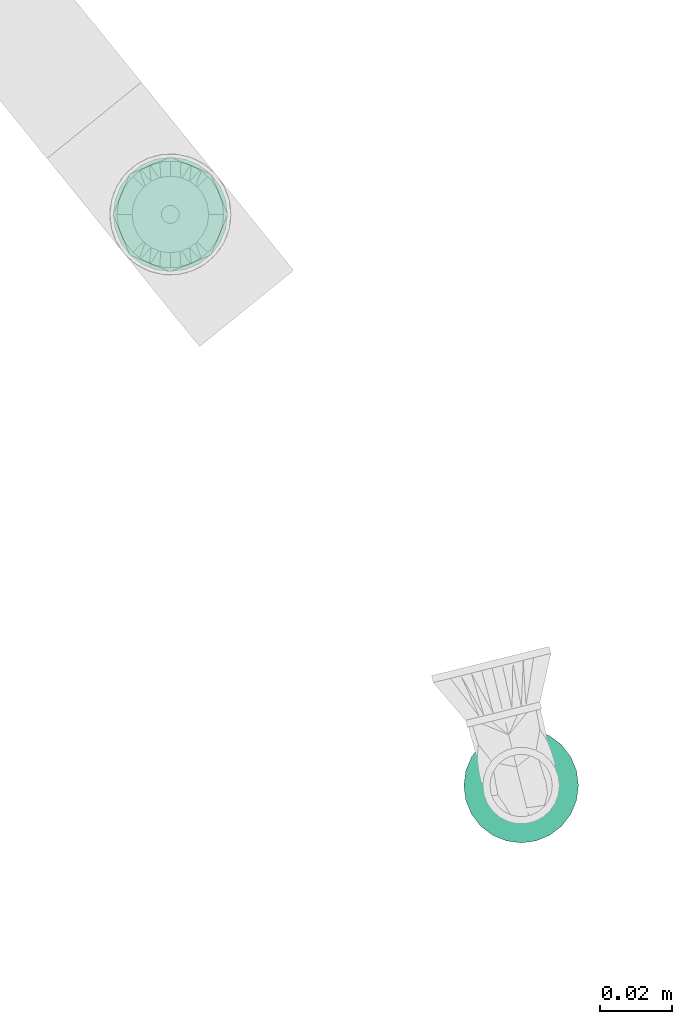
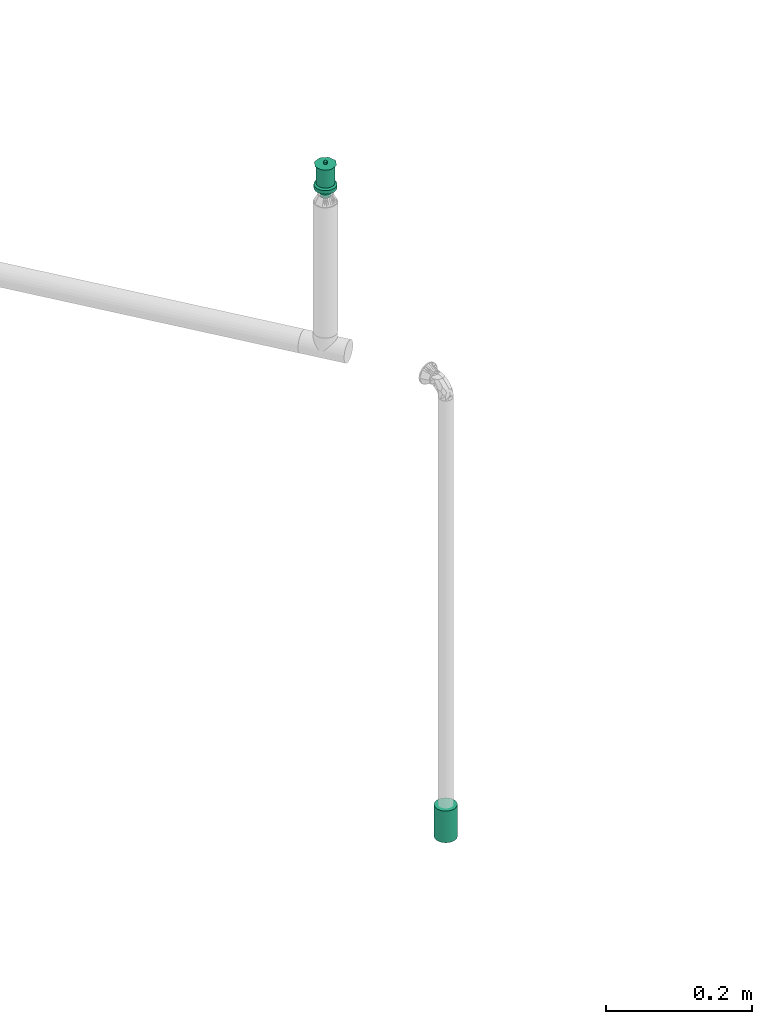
# One storey, part 86 of 94: 2 flow terminals.
"""IFC2X3 building model written with IfcOpenShell, lengths in millimetres."""

from ifc_helpers import new_model, entity, si_unit, converted_unit, derived_unit, direction, frame, origin_with_axes, place, context, subcontext, project, spatial, open_shell, surface_model, source, transform, mapped, type_object, element, save


model = new_model("IFC2X3")

# Units and contexts
model_context = context("Model", 3, precision=0.01, world=frame((0.0, 4.29681676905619e-09, 0.0)), true_north=direction((4.01073788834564e-13, 1.0)))
plan_context = context("Plan", 3, precision=0.01, world=frame((0.0, 4.29681676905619e-09, 0.0)), true_north=direction((4.01073788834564e-13, 1.0)))
body_context = subcontext(model_context, "Body", "Model", "MODEL_VIEW")
ifc_project = project(units=[converted_unit("PLANEANGLEUNIT", "DEGREE", entity("IfcPositiveLengthMeasure", 0.0174532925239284), si_unit("PLANEANGLEUNIT", "RADIAN"), dimensions=[0, 0, 0, 0, 0, 0, 0]), si_unit("AREAUNIT", "SQUARE_METRE"), si_unit("LENGTHUNIT", "METRE", prefix="MILLI"), si_unit("MASSUNIT", "GRAM", prefix="KILO"), si_unit("POWERUNIT", "WATT"), si_unit("PRESSUREUNIT", "PASCAL", prefix="KILO"), si_unit("FORCEUNIT", "NEWTON", prefix="KILO"), si_unit("ELECTRICVOLTAGEUNIT", "VOLT"), si_unit("ELECTRICCURRENTUNIT", "AMPERE"), si_unit("THERMODYNAMICTEMPERATUREUNIT", "DEGREE_CELSIUS"), si_unit("TIMEUNIT", "SECOND"), si_unit("VOLUMEUNIT", "CUBIC_METRE"), derived_unit("LINEARVELOCITYUNIT", [(si_unit("LENGTHUNIT", "METRE"), 1), (si_unit("TIMEUNIT", "SECOND"), -1)]), derived_unit("VOLUMETRICFLOWRATEUNIT", [(si_unit("VOLUMEUNIT", "CUBIC_METRE"), 1), (si_unit("TIMEUNIT", "SECOND"), -1)]), derived_unit("THERMALTRANSMITTANCEUNIT", [(si_unit("POWERUNIT", "WATT"), 1), (si_unit("THERMODYNAMICTEMPERATUREUNIT", "KELVIN"), -1), (si_unit("AREAUNIT", "SQUARE_METRE"), -1)]), derived_unit("SOUNDPRESSUREUNIT", [(si_unit("PRESSUREUNIT", "PASCAL"), 1)])], contexts=[model_context, plan_context])

# Site, building, storey
site_placement = place(None, frame((0.0, -4.29681676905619e-09, 0.0), z_axis=(0.0, 0.0, 1.0), x_axis=(1.0, 0.0, 0.0)))
site = spatial("IfcSite", under=ifc_project, at=site_placement, CompositionType="ELEMENT")
building_placement = place(site_placement, frame((0.0, 4.29681676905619e-09, 0.0), z_axis=(0.0, 0.0, 1.0), x_axis=(1.0, 0.0, 0.0)))
building = spatial("IfcBuilding", under=site, at=building_placement, Name="mc-building", CompositionType="ELEMENT")
storey_placement = place(building_placement, frame((0.0, 0.0, 210900.0), z_axis=(0.0, 0.0, 1.0), x_axis=(1.0, 0.0, 0.0)))
storey = spatial("IfcBuildingStorey", under=building, at=storey_placement, Name="Nivå F", CompositionType="ELEMENT", Elevation=210900.0)

# Flow terminals
fire_suppression_terminal_type_1 = type_object("IfcFireSuppressionTerminalType", Name="68DGR-STD-STÅENDE", PredefinedType="NOTDEFINED")
shared_shape_1 = source(origin_with_axes(), body_context, "Body", "SurfaceModel", [
    surface_model("IfcShellBasedSurfaceModel", [(3.36465, -12.55704, 51.0), (6.5, -11.25833, 51.0), (9.19239, -9.19239, 51.0), (12.55704, -3.36465, 51.0), (-11.25833, -6.5, 51.0), (11.25833, -6.5, 51.0), (-13.0, 0.0, 51.0), (0.0, -13.0, 51.0), (-6.5, -11.25833, 51.0), (-3.36465, -12.55704, 51.0), (-9.19239, -9.19239, 51.0), (-12.55704, -3.36465, 51.0), (13.0, 0.0, 51.0), (12.55704, 3.36465, 51.0), (11.25833, 6.5, 51.0), (9.19239, 9.19239, 51.0), (6.5, 11.25833, 51.0), (3.36465, 12.55704, 51.0), (0.0, 13.0, 51.0), (-3.36465, 12.55704, 51.0), (-12.55704, 3.36465, 51.0), (-9.19239, 9.19239, 51.0), (-11.25833, 6.5, 51.0), (-6.5, 11.25833, 51.0), (0.0, 13.0, 21.14766), (3.36465, 12.55704, 21.14766), (6.5, 11.25833, 21.14766), (-3.36465, 12.55704, 21.14766), (9.19239, 9.19239, 21.14766), (11.25833, 6.5, 21.14766), (12.55704, 3.36465, 21.14766), (-12.55704, 3.36465, 21.14766), (-11.25833, -6.5, 21.14766), (-9.19239, 9.19239, 21.14766), (-6.5, 11.25833, 21.14766), (-11.25833, 6.5, 21.14766), (-13.0, 0.0, 21.14766), (12.55704, -3.36465, 21.14766), (9.19239, -9.19239, 21.14766), (11.25833, -6.5, 21.14766), (6.5, -11.25833, 21.14766), (3.36465, -12.55704, 21.14766), (-6.5, -11.25833, 21.14766), (-9.19239, -9.19239, 21.14766), (-12.55704, -3.36465, 21.14766), (0.0, -13.0, 21.14766), (-3.36465, -12.55704, 21.14766), (13.0, 0.0, 21.14766), (7.24444, -1.94114, 0.1), (1.94114, -7.24444, 0.1), (3.75, -6.49519, 0.1), (5.3033, -5.3033, 0.1), (-5.3033, -5.3033, 0.1), (6.49519, -3.75, 0.1), (5.3033, 5.3033, 0.1), (0.0, -7.5, 0.1), (-3.75, -6.49519, 0.1), (-1.94114, -7.24444, 0.1), (-7.24444, -1.94114, 0.1), (-6.49519, -3.75, 0.1), (-7.24444, 1.94114, 0.1), (7.5, 0.0, 0.1), (6.49519, 3.75, 0.1), (-6.49519, 3.75, 0.1), (1.94114, 7.24444, 0.1), (0.0, 7.5, 0.1), (3.75, 6.49519, 0.1), (-7.5, 0.0, 0.1), (-5.3033, 5.3033, 0.1), (-1.94114, 7.24444, 0.1), (-3.75, 6.49519, 0.1), (7.24444, 1.94114, 0.1), (1.94114, 7.24444, -0.1), (-6.49519, 3.75, -0.1), (0.0, 7.5, -0.1), (5.3033, 5.3033, -0.1), (3.75, 6.49519, -0.1), (6.49519, 3.75, -0.1), (7.24444, 1.94114, -0.1), (-1.94114, 7.24444, -0.1), (-5.3033, 5.3033, -0.1), (-3.75, 6.49519, -0.1), (-7.24444, 1.94114, -0.1), (-7.24444, -1.94114, -0.1), (-7.5, 0.0, -0.1), (7.5, 0.0, -0.1), (7.24444, -1.94114, -0.1), (-5.3033, -5.3033, -0.1), (1.94114, -7.24444, -0.1), (6.49519, -3.75, -0.1), (5.3033, -5.3033, -0.1), (3.75, -6.49519, -0.1), (-6.49519, -3.75, -0.1), (-3.75, -6.49519, -0.1), (0.0, -7.5, -0.1), (-1.94114, -7.24444, -0.1), (0.0, -2.5, 51.0), (-2.5, 0.0, 51.0), (0.0, 2.5, 51.0), (2.5, 0.0, 51.0), (0.0, -16.0, 53.0), (11.31371, -11.31371, 53.0), (-11.31371, -11.31371, 53.0), (-16.0, 0.0, 53.0), (16.0, 0.0, 53.0), (11.31371, 11.31371, 53.0), (0.0, 16.0, 53.0), (-11.31371, 11.31371, 53.0), (1.25, -2.16506, 57.0), (0.0, -2.5, 57.0), (0.64705, -2.41481, 57.0), (2.41481, -0.64705, 57.0), (1.76777, -1.76777, 57.0), (-2.41481, -0.64705, 57.0), (-2.5, 0.0, 57.0), (2.16506, -1.25, 57.0), (-1.25, -2.16506, 57.0), (-0.64705, -2.41481, 57.0), (-1.76777, -1.76777, 57.0), (-2.16506, -1.25, 57.0), (2.5, 0.0, 57.0), (2.41481, 0.64705, 57.0), (2.16506, 1.25, 57.0), (1.76777, 1.76777, 57.0), (0.64705, 2.41481, 57.0), (1.25, 2.16506, 57.0), (-1.76777, 1.76777, 57.0), (0.0, 2.5, 57.0), (-2.16506, 1.25, 57.0), (-2.41481, 0.64705, 57.0), (-0.64705, 2.41481, 57.0), (-1.25, 2.16506, 57.0), (1.25, 2.16506, 51.0), (1.76777, 1.76777, 51.0), (1.15, 1.99186, 51.0), (0.59528, 2.22163, 51.0), (0.64705, 2.41481, 51.0), (0.0, 2.3, 51.0), (1.62635, 1.62635, 51.0), (2.41481, 0.64705, 51.0), (2.3, 0.0, 51.0), (2.22163, 0.59528, 51.0), (2.16506, 1.25, 51.0), (1.99186, 1.15, 51.0), (-0.59528, 2.22163, 51.0), (-0.64705, 2.41481, 51.0), (-1.15, 1.99186, 51.0), (-1.76777, 1.76777, 51.0), (-1.25, 2.16506, 51.0), (-1.62635, 1.62635, 51.0), (-1.99186, 1.15, 51.0), (-2.16506, 1.25, 51.0), (-2.22163, 0.59528, 51.0), (-2.41481, 0.64705, 51.0), (-2.3, 0.0, 51.0), (2.41481, -0.64705, 51.0), (2.22163, -0.59528, 51.0), (1.99186, -1.15, 51.0), (2.16506, -1.25, 51.0), (1.62635, -1.62635, 51.0), (1.76777, -1.76777, 51.0), (1.25, -2.16506, 51.0), (1.15, -1.99186, 51.0), (0.59528, -2.22163, 51.0), (0.64705, -2.41481, 51.0), (0.0, -2.3, 51.0), (-2.16506, -1.25, 51.0), (-1.99186, -1.15, 51.0), (-1.76777, -1.76777, 51.0), (-1.62635, -1.62635, 51.0), (-2.41481, -0.64705, 51.0), (-2.22163, -0.59528, 51.0), (-0.59528, -2.22163, 51.0), (-0.64705, -2.41481, 51.0), (-1.15, -1.99186, 51.0), (-1.25, -2.16506, 51.0), (1.62635, -1.62635, 56.8), (1.15, -1.99186, 56.8), (0.59528, -2.22163, 56.8), (0.0, -2.3, 56.8), (2.22163, 0.59528, 56.8), (1.99186, -1.15, 56.8), (2.22163, -0.59528, 56.8), (-0.59528, -2.22163, 56.8), (-1.15, -1.99186, 56.8), (-1.62635, -1.62635, 56.8), (-1.99186, -1.15, 56.8), (-2.22163, -0.59528, 56.8), (-1.99186, 1.15, 56.8), (2.3, 0.0, 56.8), (1.62635, 1.62635, 56.8), (1.99186, 1.15, 56.8), (1.15, 1.99186, 56.8), (0.0, 2.3, 56.8), (0.59528, 2.22163, 56.8), (-2.22163, 0.59528, 56.8), (-2.3, 0.0, 56.8), (-1.15, 1.99186, 56.8), (-0.59528, 2.22163, 56.8), (-1.62635, 1.62635, 56.8), (4.1411, -15.45481, 19.0), (8.0, -13.85641, 19.0), (11.31371, -11.31371, 19.0), (-8.0, -13.85641, 19.0), (15.45481, -4.1411, 19.0), (16.0, 0.0, 19.0), (13.85641, -8.0, 19.0), (0.0, -16.0, 19.0), (-4.1411, -15.45481, 19.0), (-13.85641, -8.0, 19.0), (-11.31371, -11.31371, 19.0), (-15.45481, -4.1411, 19.0), (15.45481, 4.1411, 19.0), (13.85641, 8.0, 19.0), (11.31371, 11.31371, 19.0), (-4.1411, 15.45481, 19.0), (8.0, 13.85641, 19.0), (4.1411, 15.45481, 19.0), (0.0, 16.0, 19.0), (-13.85641, 8.0, 19.0), (-15.45481, 4.1411, 19.0), (-16.0, 0.0, 19.0), (-11.31371, 11.31371, 19.0), (-8.0, 13.85641, 19.0), (0.0, 16.0, 13.0), (4.1411, 15.45481, 13.0), (8.0, 13.85641, 13.0), (-4.1411, 15.45481, 13.0), (11.31371, 11.31371, 13.0), (13.85641, 8.0, 13.0), (15.45481, 4.1411, 13.0), (-15.45481, -4.1411, 13.0), (-11.31371, 11.31371, 13.0), (-8.0, 13.85641, 13.0), (-13.85641, 8.0, 13.0), (-15.45481, 4.1411, 13.0), (-16.0, 0.0, 13.0), (4.1411, -15.45481, 13.0), (16.0, 0.0, 13.0), (15.45481, -4.1411, 13.0), (13.85641, -8.0, 13.0), (11.31371, -11.31371, 13.0), (8.0, -13.85641, 13.0), (-8.0, -13.85641, 13.0), (-13.85641, -8.0, 13.0), (-11.31371, -11.31371, 13.0), (0.0, -16.0, 13.0), (-4.1411, -15.45481, 13.0), (7.24444, -1.94114, 13.0), (1.94114, -7.24444, 13.0), (3.75, -6.49519, 13.0), (5.3033, -5.3033, 13.0), (-5.3033, -5.3033, 13.0), (6.49519, -3.75, 13.0), (5.3033, 5.3033, 13.0), (0.0, -7.5, 13.0), (-3.75, -6.49519, 13.0), (-1.94114, -7.24444, 13.0), (-7.24444, -1.94114, 13.0), (-6.49519, -3.75, 13.0), (-7.24444, 1.94114, 13.0), (7.5, 0.0, 13.0), (6.49519, 3.75, 13.0), (-6.49519, 3.75, 13.0), (1.94114, 7.24444, 13.0), (0.0, 7.5, 13.0), (3.75, 6.49519, 13.0), (-7.5, 0.0, 13.0), (-5.3033, 5.3033, 13.0), (-1.94114, 7.24444, 13.0), (-3.75, 6.49519, 13.0), (7.24444, 1.94114, 13.0), (3.75, 6.49519, 0.0), (5.3033, 5.3033, 0.0), (3.65, 6.32199, 0.0), (1.88938, 7.05126, 0.0), (0.0, 7.3, 0.0), (1.94114, 7.24444, 0.0), (0.0, 7.5, 0.0), (5.16188, 5.16188, 0.0), (7.24444, 1.94114, 0.0), (7.3, 0.0, 0.0), (7.05126, 1.88938, 0.0), (7.5, 0.0, 0.0), (6.49519, 3.75, 0.0), (6.32199, 3.65, 0.0), (-1.88938, 7.05126, 0.0), (-1.94114, 7.24444, 0.0), (-3.65, 6.32199, 0.0), (-5.3033, 5.3033, 0.0), (-3.75, 6.49519, 0.0), (-5.16188, 5.16188, 0.0), (-6.32199, 3.65, 0.0), (-6.49519, 3.75, 0.0), (-7.05126, 1.88938, 0.0), (-7.24444, 1.94114, 0.0), (-7.3, 0.0, 0.0), (-7.5, 0.0, 0.0), (7.24444, -1.94114, 0.0), (7.05126, -1.88938, 0.0), (6.32199, -3.65, 0.0), (6.49519, -3.75, 0.0), (5.16188, -5.16188, 0.0), (5.3033, -5.3033, 0.0), (3.75, -6.49519, 0.0), (3.65, -6.32199, 0.0), (1.88938, -7.05126, 0.0), (1.94114, -7.24444, 0.0), (0.0, -7.3, 0.0), (0.0, -7.5, 0.0), (-6.49519, -3.75, 0.0), (-6.32199, -3.65, 0.0), (-5.3033, -5.3033, 0.0), (-5.16188, -5.16188, 0.0), (-7.24444, -1.94114, 0.0), (-7.05126, -1.88938, 0.0), (-1.88938, -7.05126, 0.0), (-1.94114, -7.24444, 0.0), (-3.65, -6.32199, 0.0), (-3.75, -6.49519, 0.0), (1.88938, -7.05126, 12.8), (0.0, -7.3, 12.8), (3.65, -6.32199, 12.8), (5.16188, -5.16188, 12.8), (6.32199, -3.65, 12.8), (7.05126, 1.88938, 12.8), (7.05126, -1.88938, 12.8), (-5.16188, -5.16188, 12.8), (-1.88938, -7.05126, 12.8), (-3.65, -6.32199, 12.8), (-6.32199, -3.65, 12.8), (-7.05126, -1.88938, 12.8), (0.0, 7.3, 12.8), (7.3, 0.0, 12.8), (6.32199, 3.65, 12.8), (5.16188, 5.16188, 12.8), (3.65, 6.32199, 12.8), (1.88938, 7.05126, 12.8), (-6.32199, 3.65, 12.8), (-7.05126, 1.88938, 12.8), (-7.3, 0.0, 12.8), (-3.65, 6.32199, 12.8), (-1.88938, 7.05126, 12.8), (-5.16188, 5.16188, 12.8)], [open_shell([[[0, 1, 2]], [[0, 2, 3]], [[0, 3, 4]], [[3, 2, 5]], [[6, 4, 3]], [[7, 8, 9]], [[7, 0, 8]], [[8, 4, 10]], [[0, 4, 8]], [[4, 6, 11]], [[6, 3, 12]], [[13, 14, 15]], [[6, 13, 15]], [[16, 17, 18]], [[15, 16, 19]], [[18, 19, 16]], [[20, 21, 22]], [[20, 6, 15]], [[21, 19, 23]], [[19, 21, 20]], [[15, 19, 20]], [[13, 6, 12]], [[24, 25, 26]], [[27, 24, 26]], [[28, 29, 30]], [[26, 28, 31]], [[28, 32, 31]], [[27, 33, 34]], [[33, 27, 31]], [[33, 31, 35]], [[27, 26, 31]], [[31, 32, 36]], [[32, 28, 30]], [[32, 30, 37]], [[38, 37, 39]], [[38, 40, 41]], [[38, 41, 37]], [[32, 37, 41]], [[32, 42, 43]], [[44, 36, 32]], [[42, 45, 46]], [[42, 32, 41]], [[45, 42, 41]], [[30, 47, 37]], [[4, 32, 43]], [[8, 42, 46]], [[43, 42, 10]], [[9, 46, 45]], [[36, 11, 6]], [[11, 36, 44]], [[11, 44, 4]], [[44, 32, 4]], [[43, 10, 4]], [[8, 10, 42]], [[46, 9, 8]], [[45, 7, 9]], [[0, 41, 40]], [[38, 1, 40]], [[5, 39, 37]], [[38, 39, 2]], [[3, 37, 47]], [[41, 0, 7]], [[40, 1, 0]], [[38, 2, 1]], [[39, 5, 2]], [[3, 5, 37]], [[47, 12, 3]], [[41, 7, 45]], [[30, 13, 47]], [[29, 14, 30]], [[25, 24, 17]], [[15, 29, 28]], [[30, 14, 13]], [[13, 12, 47]], [[16, 26, 17]], [[16, 15, 28]], [[26, 25, 17]], [[15, 14, 29]], [[28, 26, 16]], [[24, 18, 17]], [[19, 27, 34]], [[33, 23, 34]], [[22, 35, 31]], [[33, 35, 21]], [[20, 31, 36]], [[27, 19, 18]], [[34, 23, 19]], [[33, 21, 23]], [[35, 22, 21]], [[20, 22, 31]], [[36, 6, 20]], [[27, 18, 24]], [[48, 49, 50]], [[48, 50, 51]], [[49, 48, 52]], [[48, 51, 53]], [[54, 52, 48]], [[55, 56, 57]], [[56, 55, 52]], [[52, 58, 59]], [[52, 55, 49]], [[52, 60, 58]], [[54, 48, 61]], [[62, 54, 61]], [[54, 63, 52]], [[64, 65, 54]], [[64, 54, 66]], [[63, 54, 65]], [[63, 60, 52]], [[67, 58, 60]], [[68, 69, 70]], [[69, 68, 63]], [[69, 63, 65]], [[71, 62, 61]], [[72, 73, 74]], [[75, 72, 76]], [[75, 77, 78]], [[72, 75, 73]], [[78, 73, 75]], [[79, 80, 81]], [[80, 79, 73]], [[74, 73, 79]], [[78, 82, 73]], [[82, 83, 84]], [[82, 78, 85]], [[86, 87, 85]], [[88, 86, 89]], [[90, 91, 88]], [[90, 88, 89]], [[87, 86, 88]], [[83, 87, 92]], [[83, 85, 87]], [[93, 94, 95]], [[94, 93, 87]], [[88, 94, 87]], [[85, 83, 82]], [[83, 58, 84]], [[92, 59, 83]], [[56, 87, 93]], [[92, 87, 52]], [[57, 93, 95]], [[83, 59, 58]], [[58, 67, 84]], [[57, 56, 93]], [[52, 87, 56]], [[52, 59, 92]], [[55, 57, 95]], [[95, 94, 55]], [[88, 49, 94]], [[91, 50, 88]], [[53, 90, 89]], [[91, 90, 51]], [[48, 89, 86]], [[91, 51, 50]], [[50, 49, 88]], [[61, 48, 86]], [[53, 89, 48]], [[53, 51, 90]], [[85, 61, 86]], [[94, 49, 55]], [[78, 71, 85]], [[77, 62, 78]], [[66, 75, 76]], [[77, 75, 54]], [[64, 76, 72]], [[78, 62, 71]], [[71, 61, 85]], [[64, 66, 76]], [[54, 75, 66]], [[54, 62, 77]], [[65, 64, 72]], [[72, 74, 65]], [[79, 69, 74]], [[81, 70, 79]], [[63, 80, 73]], [[81, 80, 68]], [[60, 73, 82]], [[81, 68, 70]], [[70, 69, 79]], [[67, 60, 82]], [[63, 73, 60]], [[63, 68, 80]], [[84, 67, 82]], [[74, 69, 65]], [[96, 97, 98]], [[98, 99, 96]], [[100, 101, 102]], [[103, 102, 101]], [[101, 104, 103]], [[104, 105, 106]], [[107, 103, 106]], [[106, 103, 104]], [[99, 98, 105]], [[105, 104, 99]], [[98, 106, 105]], [[98, 107, 106]], [[107, 98, 97]], [[103, 107, 97]], [[97, 96, 102]], [[102, 103, 97]], [[96, 100, 102]], [[96, 101, 100]], [[101, 96, 99]], [[104, 101, 99]], [[108, 109, 110]], [[111, 108, 112]], [[113, 108, 114]], [[111, 112, 115]], [[108, 111, 114]], [[109, 116, 117]], [[116, 109, 118]], [[118, 113, 119]], [[118, 109, 108]], [[108, 113, 118]], [[111, 120, 114]], [[121, 122, 123]], [[114, 121, 123]], [[114, 123, 124]], [[124, 123, 125]], [[126, 124, 127]], [[124, 128, 129]], [[129, 114, 124]], [[126, 130, 131]], [[128, 124, 126]], [[130, 126, 127]], [[121, 114, 120]], [[132, 133, 134]], [[132, 134, 135]], [[136, 135, 137]], [[135, 136, 132]], [[136, 137, 98]], [[134, 133, 138]], [[139, 140, 141]], [[140, 139, 99]], [[139, 141, 142]], [[138, 142, 143]], [[142, 138, 133]], [[143, 142, 141]], [[98, 144, 145]], [[98, 137, 144]], [[145, 144, 146]], [[147, 148, 149]], [[146, 148, 145]], [[149, 148, 146]], [[150, 151, 147]], [[151, 150, 152]], [[150, 147, 149]], [[153, 152, 154]], [[152, 153, 151]], [[153, 154, 97]], [[99, 155, 156]], [[156, 155, 157]], [[157, 158, 159]], [[158, 157, 155]], [[159, 158, 160]], [[160, 161, 162]], [[162, 161, 163]], [[163, 164, 165]], [[164, 163, 161]], [[165, 164, 96]], [[162, 159, 160]], [[166, 167, 168]], [[168, 167, 169]], [[167, 166, 170]], [[97, 171, 170]], [[170, 171, 167]], [[97, 154, 171]], [[172, 96, 173]], [[172, 173, 174]], [[169, 175, 168]], [[175, 169, 174]], [[175, 174, 173]], [[165, 96, 172]], [[156, 140, 99]], [[170, 113, 97]], [[166, 119, 170]], [[116, 168, 175]], [[166, 168, 118]], [[117, 175, 173]], [[170, 119, 113]], [[113, 114, 97]], [[117, 116, 175]], [[118, 168, 116]], [[118, 119, 166]], [[109, 117, 173]], [[173, 96, 109]], [[164, 110, 96]], [[161, 108, 164]], [[115, 160, 158]], [[161, 160, 112]], [[111, 158, 155]], [[161, 112, 108]], [[108, 110, 164]], [[120, 111, 155]], [[115, 158, 111]], [[115, 112, 160]], [[99, 120, 155]], [[96, 110, 109]], [[139, 121, 99]], [[142, 122, 139]], [[125, 133, 132]], [[142, 133, 123]], [[124, 132, 136]], [[139, 122, 121]], [[121, 120, 99]], [[124, 125, 132]], [[123, 133, 125]], [[123, 122, 142]], [[127, 124, 136]], [[136, 98, 127]], [[145, 130, 98]], [[148, 131, 145]], [[128, 147, 151]], [[148, 147, 126]], [[129, 151, 153]], [[148, 126, 131]], [[131, 130, 145]], [[114, 129, 153]], [[128, 151, 129]], [[128, 126, 147]], [[97, 114, 153]], [[98, 130, 127]], [[176, 177, 178]], [[176, 178, 179]], [[180, 176, 179]], [[181, 176, 182]], [[180, 182, 176]], [[183, 184, 179]], [[185, 179, 184]], [[186, 187, 185]], [[185, 187, 188]], [[179, 185, 188]], [[189, 182, 180]], [[190, 191, 180]], [[192, 190, 180]], [[193, 194, 192]], [[180, 193, 192]], [[188, 193, 180]], [[195, 188, 196]], [[196, 188, 187]], [[197, 198, 199]], [[188, 199, 198]], [[188, 198, 193]], [[180, 179, 188]], [[154, 187, 171]], [[171, 186, 167]], [[174, 169, 184]], [[185, 169, 167]], [[172, 174, 183]], [[187, 186, 171]], [[154, 196, 187]], [[174, 184, 183]], [[184, 169, 185]], [[167, 186, 185]], [[172, 183, 179]], [[179, 165, 172]], [[165, 178, 163]], [[163, 177, 162]], [[157, 159, 181]], [[176, 159, 162]], [[156, 157, 182]], [[177, 176, 162]], [[163, 178, 177]], [[156, 182, 189]], [[182, 157, 181]], [[159, 176, 181]], [[156, 189, 140]], [[179, 178, 165]], [[140, 180, 141]], [[141, 191, 143]], [[134, 138, 192]], [[190, 138, 143]], [[135, 134, 194]], [[180, 191, 141]], [[140, 189, 180]], [[134, 192, 194]], [[192, 138, 190]], [[143, 191, 190]], [[135, 194, 193]], [[193, 137, 135]], [[137, 198, 144]], [[144, 197, 146]], [[150, 149, 188]], [[199, 149, 146]], [[152, 150, 195]], [[197, 199, 146]], [[144, 198, 197]], [[152, 195, 196]], [[195, 150, 188]], [[149, 199, 188]], [[152, 196, 154]], [[193, 198, 137]], [[200, 201, 202]], [[203, 200, 202]], [[204, 205, 202]], [[204, 202, 206]], [[203, 202, 205]], [[207, 203, 208]], [[207, 200, 203]], [[203, 209, 210]], [[209, 203, 211]], [[205, 211, 203]], [[205, 212, 211]], [[212, 213, 214]], [[215, 212, 214]], [[216, 217, 218]], [[214, 216, 215]], [[218, 215, 216]], [[211, 219, 220]], [[221, 211, 220]], [[222, 215, 223]], [[215, 222, 219]], [[219, 211, 215]], [[211, 212, 215]], [[224, 225, 226]], [[227, 224, 226]], [[228, 229, 230]], [[227, 226, 228]], [[227, 228, 231]], [[227, 232, 233]], [[232, 227, 234]], [[234, 231, 235]], [[231, 234, 227]], [[235, 231, 236]], [[228, 230, 231]], [[237, 238, 239]], [[237, 239, 240]], [[241, 242, 237]], [[241, 237, 240]], [[238, 237, 243]], [[244, 243, 245]], [[243, 244, 231]], [[243, 246, 247]], [[243, 231, 238]], [[237, 246, 243]], [[238, 231, 230]], [[231, 211, 236]], [[244, 209, 231]], [[203, 245, 243]], [[244, 245, 210]], [[208, 243, 247]], [[231, 209, 211]], [[211, 221, 236]], [[208, 203, 243]], [[210, 245, 203]], [[210, 209, 244]], [[207, 208, 247]], [[247, 246, 207]], [[237, 200, 246]], [[242, 201, 237]], [[206, 241, 240]], [[242, 241, 202]], [[204, 240, 239]], [[242, 202, 201]], [[201, 200, 237]], [[205, 204, 239]], [[206, 240, 204]], [[206, 202, 241]], [[238, 205, 239]], [[246, 200, 207]], [[230, 212, 238]], [[229, 213, 230]], [[216, 228, 226]], [[229, 228, 214]], [[217, 226, 225]], [[230, 213, 212]], [[212, 205, 238]], [[217, 216, 226]], [[214, 228, 216]], [[214, 213, 229]], [[218, 217, 225]], [[225, 224, 218]], [[227, 215, 224]], [[233, 223, 227]], [[219, 232, 234]], [[233, 232, 222]], [[220, 234, 235]], [[233, 222, 223]], [[223, 215, 227]], [[221, 220, 235]], [[219, 234, 220]], [[219, 222, 232]], [[236, 221, 235]], [[224, 215, 218]], [[248, 249, 250]], [[248, 250, 251]], [[249, 248, 252]], [[248, 251, 253]], [[254, 252, 248]], [[255, 256, 257]], [[256, 255, 252]], [[252, 258, 259]], [[252, 255, 249]], [[252, 260, 258]], [[254, 248, 261]], [[262, 254, 261]], [[254, 263, 252]], [[264, 265, 254]], [[264, 254, 266]], [[263, 254, 265]], [[263, 260, 252]], [[267, 258, 260]], [[268, 269, 270]], [[269, 268, 263]], [[269, 263, 265]], [[271, 262, 261]], [[272, 273, 274]], [[272, 274, 275]], [[276, 277, 275]], [[277, 276, 278]], [[275, 277, 272]], [[274, 273, 279]], [[280, 281, 282]], [[281, 280, 283]], [[280, 282, 284]], [[279, 284, 285]], [[284, 279, 273]], [[285, 284, 282]], [[278, 286, 287]], [[287, 286, 288]], [[289, 290, 291]], [[288, 290, 287]], [[288, 291, 290]], [[278, 276, 286]], [[292, 293, 289]], [[293, 292, 294]], [[292, 289, 291]], [[295, 294, 296]], [[294, 295, 293]], [[295, 296, 297]], [[283, 298, 299]], [[299, 298, 300]], [[300, 301, 302]], [[301, 300, 298]], [[302, 301, 303]], [[303, 304, 305]], [[305, 304, 306]], [[306, 307, 308]], [[307, 306, 304]], [[308, 307, 309]], [[305, 302, 303]], [[310, 311, 312]], [[312, 311, 313]], [[311, 310, 314]], [[297, 315, 314]], [[314, 315, 311]], [[297, 296, 315]], [[316, 309, 317]], [[316, 317, 318]], [[313, 319, 312]], [[313, 318, 319]], [[319, 318, 317]], [[308, 309, 316]], [[299, 281, 283]], [[314, 258, 297]], [[310, 259, 314]], [[256, 312, 319]], [[310, 312, 252]], [[257, 319, 317]], [[314, 259, 258]], [[258, 267, 297]], [[257, 256, 319]], [[252, 312, 256]], [[252, 259, 310]], [[255, 257, 317]], [[317, 309, 255]], [[307, 249, 309]], [[304, 250, 307]], [[253, 303, 301]], [[304, 303, 251]], [[248, 301, 298]], [[304, 251, 250]], [[250, 249, 307]], [[261, 248, 298]], [[253, 301, 248]], [[253, 251, 303]], [[283, 261, 298]], [[309, 249, 255]], [[280, 271, 283]], [[284, 262, 280]], [[266, 273, 272]], [[284, 273, 254]], [[264, 272, 277]], [[280, 262, 271]], [[271, 261, 283]], [[264, 266, 272]], [[254, 273, 266]], [[254, 262, 284]], [[265, 264, 277]], [[277, 278, 265]], [[287, 269, 278]], [[290, 270, 287]], [[263, 289, 293]], [[290, 289, 268]], [[260, 293, 295]], [[290, 268, 270]], [[270, 269, 287]], [[267, 260, 295]], [[263, 293, 260]], [[263, 268, 289]], [[297, 267, 295]], [[278, 269, 265]], [[320, 321, 322]], [[323, 322, 324]], [[325, 326, 322]], [[324, 322, 326]], [[322, 327, 325]], [[328, 329, 321]], [[327, 321, 329]], [[330, 331, 327]], [[322, 321, 327]], [[331, 332, 327]], [[326, 325, 333]], [[334, 325, 332]], [[335, 334, 336]], [[332, 337, 336]], [[334, 332, 336]], [[331, 338, 332]], [[339, 338, 340]], [[340, 338, 331]], [[341, 342, 343]], [[332, 338, 343]], [[332, 343, 342]], [[332, 325, 327]], [[296, 331, 315]], [[315, 330, 311]], [[318, 313, 329]], [[327, 313, 311]], [[316, 318, 328]], [[331, 330, 315]], [[296, 340, 331]], [[318, 329, 328]], [[329, 313, 327]], [[311, 330, 327]], [[316, 328, 321]], [[321, 308, 316]], [[308, 320, 306]], [[306, 322, 305]], [[300, 302, 324]], [[323, 302, 305]], [[299, 300, 326]], [[322, 323, 305]], [[306, 320, 322]], [[299, 326, 333]], [[326, 300, 324]], [[302, 323, 324]], [[299, 333, 281]], [[321, 320, 308]], [[281, 325, 282]], [[282, 334, 285]], [[274, 279, 336]], [[335, 279, 285]], [[275, 274, 337]], [[325, 334, 282]], [[281, 333, 325]], [[274, 336, 337]], [[336, 279, 335]], [[285, 334, 335]], [[275, 337, 332]], [[332, 276, 275]], [[276, 342, 286]], [[286, 341, 288]], [[292, 291, 338]], [[343, 291, 288]], [[294, 292, 339]], [[341, 343, 288]], [[286, 342, 341]], [[294, 339, 340]], [[339, 292, 338]], [[291, 343, 338]], [[294, 340, 296]], [[332, 342, 276]]])]),
])
flow_terminal_1_placement = place(storey_placement, frame((727302.06172, 443560.15199, 3752.0), z_axis=(0.0, 0.0, 1.0), x_axis=(1.0, 0.0, 0.0)))
element("IfcFlowTerminal", 1, at=flow_terminal_1_placement, inside=storey, type_object=fire_suppression_terminal_type_1, Name="68DGR-STD-STÅENDE", context=body_context, shape_type="MappedRepresentation", body=[
    mapped(shared_shape_1, transform((0.0, 0.0, 0.0), scale=1.0)),
])
fire_suppression_terminal_type_2 = type_object("IfcFireSuppressionTerminalType", Name="SP-15-K80-68DGR-STD-HIMLING", PredefinedType="NOTDEFINED")
shared_shape_2 = source(origin_with_axes(), body_context, "Body", "SurfaceModel", [
    surface_model("IfcShellBasedSurfaceModel", [(4.1411, -15.45481, 53.0), (8.0, -13.85641, 53.0), (11.31371, -11.31371, 53.0), (-8.0, -13.85641, 53.0), (15.45481, -4.1411, 53.0), (16.0, 0.0, 53.0), (13.85641, -8.0, 53.0), (0.0, -16.0, 53.0), (-4.1411, -15.45481, 53.0), (-13.85641, -8.0, 53.0), (-11.31371, -11.31371, 53.0), (-15.45481, -4.1411, 53.0), (15.45481, 4.1411, 53.0), (13.85641, 8.0, 53.0), (11.31371, 11.31371, 53.0), (-4.1411, 15.45481, 53.0), (8.0, 13.85641, 53.0), (4.1411, 15.45481, 53.0), (0.0, 16.0, 53.0), (-13.85641, 8.0, 53.0), (-15.45481, 4.1411, 53.0), (-16.0, 0.0, 53.0), (-11.31371, 11.31371, 53.0), (-8.0, 13.85641, 53.0), (0.0, 16.0, 0.0), (4.1411, 15.45481, 0.0), (8.0, 13.85641, 0.0), (-4.1411, 15.45481, 0.0), (11.31371, 11.31371, 0.0), (13.85641, 8.0, 0.0), (15.45481, 4.1411, 0.0), (-15.45481, -4.1411, 0.0), (-11.31371, 11.31371, 0.0), (-8.0, 13.85641, 0.0), (-13.85641, 8.0, 0.0), (-15.45481, 4.1411, 0.0), (-16.0, 0.0, 0.0), (4.1411, -15.45481, 0.0), (16.0, 0.0, 0.0), (15.45481, -4.1411, 0.0), (13.85641, -8.0, 0.0), (11.31371, -11.31371, 0.0), (8.0, -13.85641, 0.0), (-8.0, -13.85641, 0.0), (-13.85641, -8.0, 0.0), (-11.31371, -11.31371, 0.0), (0.0, -16.0, 0.0), (-4.1411, -15.45481, 0.0)], [open_shell([[[0, 1, 2]], [[3, 0, 2]], [[4, 5, 2]], [[4, 2, 6]], [[3, 2, 5]], [[7, 3, 8]], [[7, 0, 3]], [[3, 9, 10]], [[9, 3, 11]], [[5, 11, 3]], [[5, 12, 11]], [[12, 13, 14]], [[15, 12, 14]], [[16, 17, 18]], [[14, 16, 15]], [[18, 15, 16]], [[11, 19, 20]], [[21, 11, 20]], [[22, 15, 23]], [[15, 22, 19]], [[19, 11, 15]], [[11, 12, 15]], [[24, 25, 26]], [[27, 24, 26]], [[28, 29, 30]], [[27, 26, 28]], [[27, 28, 31]], [[27, 32, 33]], [[32, 27, 34]], [[34, 31, 35]], [[31, 34, 27]], [[35, 31, 36]], [[28, 30, 31]], [[37, 38, 39]], [[37, 39, 40]], [[41, 42, 37]], [[41, 37, 40]], [[38, 37, 43]], [[44, 43, 45]], [[43, 44, 31]], [[43, 46, 47]], [[43, 31, 38]], [[37, 46, 43]], [[38, 31, 30]], [[11, 31, 44]], [[45, 9, 44]], [[3, 43, 47]], [[45, 43, 10]], [[8, 47, 46]], [[31, 21, 36]], [[31, 11, 21]], [[44, 9, 11]], [[45, 10, 9]], [[3, 10, 43]], [[47, 8, 3]], [[46, 7, 8]], [[0, 37, 42]], [[41, 1, 42]], [[6, 40, 39]], [[41, 40, 2]], [[4, 39, 38]], [[37, 0, 7]], [[42, 1, 0]], [[41, 2, 1]], [[40, 6, 2]], [[4, 6, 39]], [[38, 5, 4]], [[37, 7, 46]], [[12, 38, 30]], [[13, 30, 29]], [[16, 26, 25]], [[17, 25, 24]], [[30, 13, 12]], [[12, 5, 38]], [[28, 14, 13]], [[28, 26, 14]], [[14, 26, 16]], [[25, 17, 16]], [[28, 13, 29]], [[24, 18, 17]], [[15, 27, 33]], [[32, 23, 33]], [[19, 34, 35]], [[32, 34, 22]], [[20, 35, 36]], [[27, 15, 18]], [[33, 23, 15]], [[32, 22, 23]], [[34, 19, 22]], [[20, 19, 35]], [[36, 21, 20]], [[27, 18, 24]]])]),
])
flow_terminal_2_placement = place(storey_placement, frame((727400.0, 443400.7, 2797.53873999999), z_axis=(0.0, 0.0, -1.0), x_axis=(-1.0, 0.0, 0.0)))
element("IfcFlowTerminal", 2, at=flow_terminal_2_placement, inside=storey, type_object=fire_suppression_terminal_type_2, Name="SP-15-K80-68DGR-STD-HIMLING", context=body_context, shape_type="MappedRepresentation", body=[
    mapped(shared_shape_2, transform((0.0, 0.0, 0.0), scale=1.0)),
])

save(model, "model.ifc")
